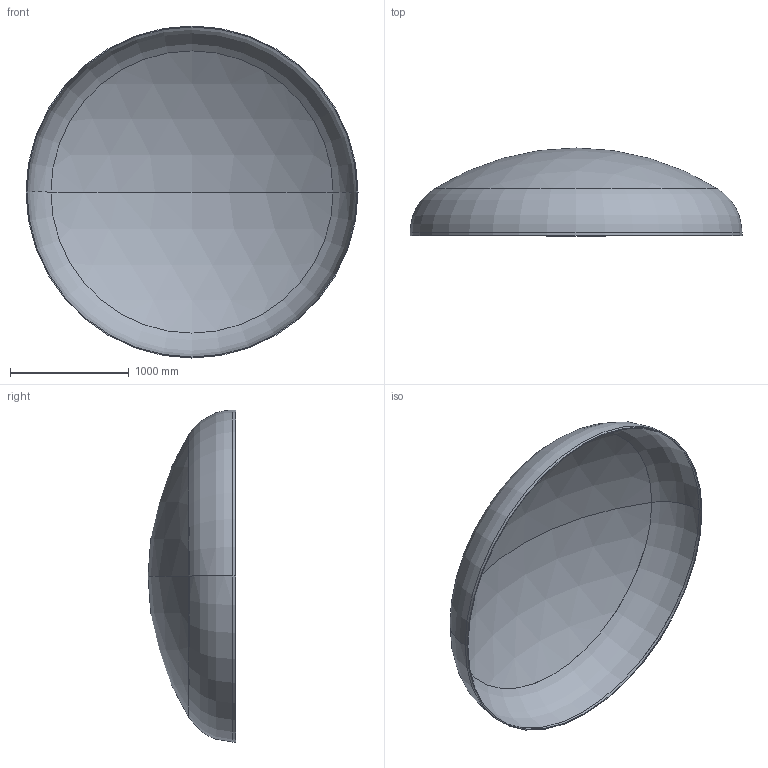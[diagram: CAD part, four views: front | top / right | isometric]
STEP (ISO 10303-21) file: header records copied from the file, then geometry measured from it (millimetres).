
FILE_DESCRIPTION (( 'STEP AP203' ), '1' );
FILE_NAME ('DIN 28013 Korbbogenform_-_Boden DIN 28013 - 2800 x 25 - I - s=8.step', '2016-07-01T16:40:07', ( '' ), ( '' ), 'SwSTEP 2.0', 'SolidWorks 2013', '' );
FILE_SCHEMA (( 'CONFIG_CONTROL_DESIGN' ));
Length unit declared in the file: millimetre
Products named in the file (1): DIN 28013 Korbbogenform_-_Boden DIN 28013 - 2800 x 25 - I - s=8
Bounding box: 2800 x 739.82 x 2800 mm (x, y, z)
Volume: 69689892.2 mm3; surface area: 17492770.6 mm2
Topology: 1 solids, 1 shells, 13 faces, 24 edges, 14 vertices
Faces by surface type: torus 4, cylinder 4, sphere 4, plane 1
Entity records: 407 total; most frequent: DIRECTION 72, CARTESIAN_POINT 52, ORIENTED_EDGE 48, AXIS2_PLACEMENT_3D 34, EDGE_CURVE 24, CIRCLE 20, VERTEX_POINT 14, EDGE_LOOP 14
